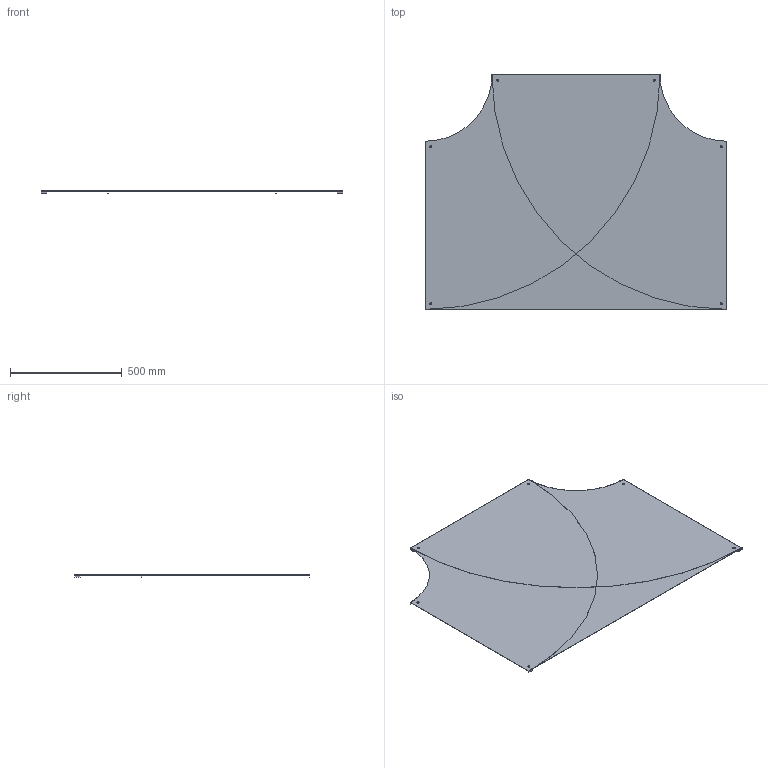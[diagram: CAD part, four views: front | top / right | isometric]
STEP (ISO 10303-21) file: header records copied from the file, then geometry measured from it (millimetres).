
FILE_DESCRIPTION(/* description */ ('','CAx-IF Rec.Pracs.---Representation and Presentation of Product Manufacturing Information (PMI)---4.0---2014-10-13'),/* implementation_level */ '2;1');
FILE_NAME(/* name */ 'Eurostrut_EETC700-300_Cover T-Piece for Cable Ladder ECL.step',/* time_stamp */ '2026-09-10T09:51:34+02:00',/* author */ (''),/* organization */ (''),/* preprocessor_version */ 'ST-DEVELOPER v20.1',/* originating_system */ 'Autodesk Revit 2027 27.2.0.39',/* authorisation */ '');
FILE_SCHEMA (('AP242_MANAGED_MODEL_BASED_3D_ENGINEERING_MIM_LF { 1 0 10303 442 2 1 4 }'));
Length unit declared in the file: millimetre
Products named in the file (7): TopLevelAssembly; Extrusion; Joined Solid Geometry; Joined Solid Geometry_1; Joined Solid Geometry_2; Joined Solid Geometry_3; Joined Solid Geometry_4
Assembly tree (6 placements, depth 2):
  TopLevelAssembly
    Extrusion
    Joined Solid Geometry
    Joined Solid Geometry_1
    Joined Solid Geometry_2
    Joined Solid Geometry_3
    Joined Solid Geometry_4
Bounding box: 1350 x 1051.5 x 9 mm (x, y, z)
Volume: 4314574.3 mm3; surface area: 5771710.8 mm2
Topology: 9 solids, 9 shells, 84 faces, 198 edges, 132 vertices
Faces by surface type: plane 42, cylinder 42
Entity records: 2630 total; most frequent: DIRECTION 476, CARTESIAN_POINT 427, ORIENTED_EDGE 396, EDGE_CURVE 198, AXIS2_PLACEMENT_3D 181, VERTEX_POINT 132, LINE 114, VECTOR 114
